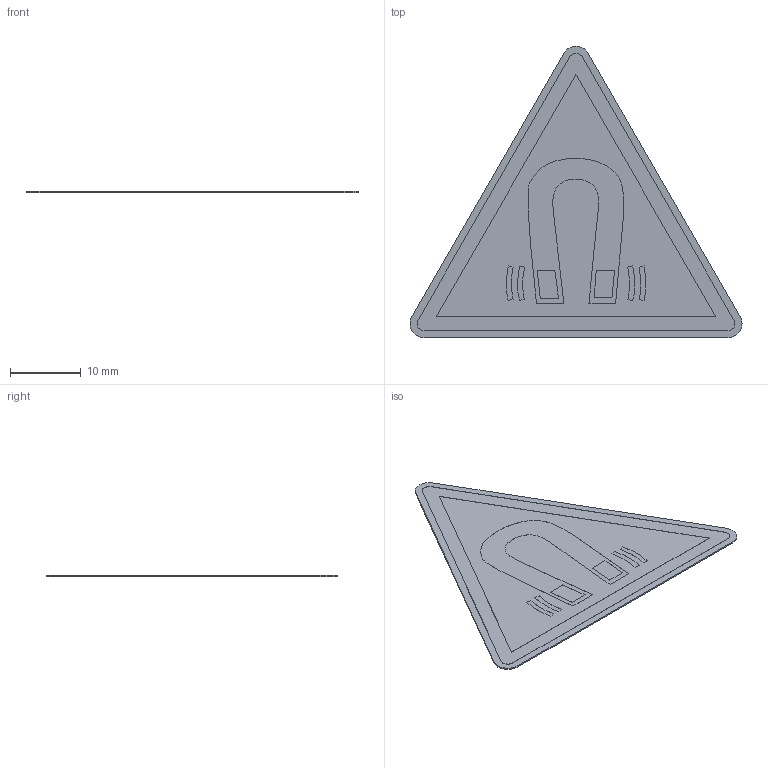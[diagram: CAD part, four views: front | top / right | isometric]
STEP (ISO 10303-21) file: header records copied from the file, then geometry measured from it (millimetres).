
FILE_DESCRIPTION (( 'STEP AP214' ), '1' );
FILE_NAME ('W006_Warnung vor magnetischem Feld.STEP', '2022-02-22T08:10:28', ( '' ), ( '' ), 'SwSTEP 2.0', 'SolidWorks 2021', '' );
FILE_SCHEMA (( 'AUTOMOTIVE_DESIGN' ));
Length unit declared in the file: millimetre
Products named in the file (1): W006_Warnung vor magnetischem Feld
Bounding box: 47.07 x 41.3 x 0.22 mm (x, y, z)
Volume: 221.6 mm3; surface area: 2183.7 mm2
Topology: 1 solids, 1 shells, 56 faces, 135 edges, 90 vertices
Faces by surface type: plane 38, bspline 10, cylinder 8
Entity records: 2381 total; most frequent: CARTESIAN_POINT 600, ORIENTED_EDGE 270, DIRECTION 225, EDGE_CURVE 135, VECTOR 99, LINE 99, VERTEX_POINT 90, EDGE_LOOP 65
